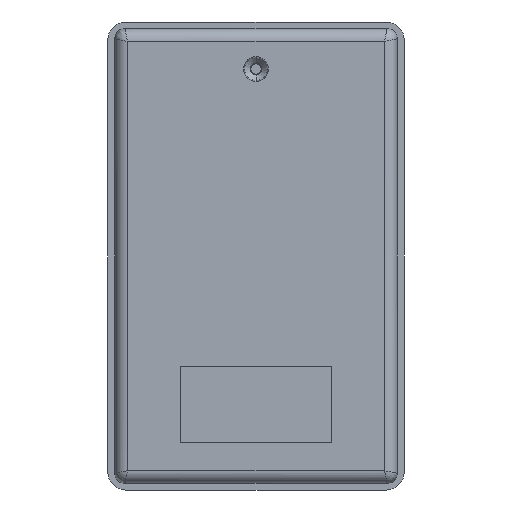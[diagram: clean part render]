
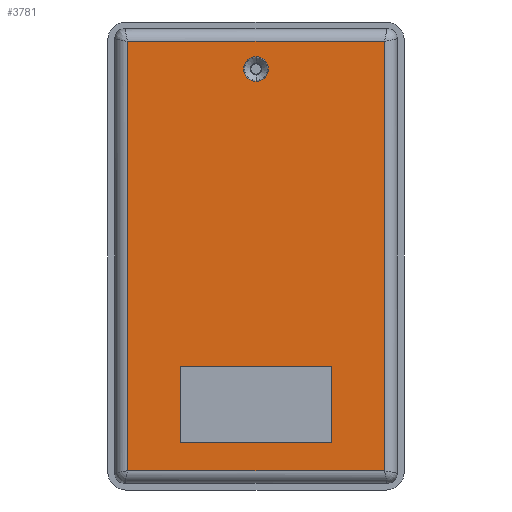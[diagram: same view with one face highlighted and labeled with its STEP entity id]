
A CAD part, front view. The second image highlights one B-rep face of the part: STEP entity #3781.
In plain terms, the highlighted planar face has unit normal (0, -1, 0).
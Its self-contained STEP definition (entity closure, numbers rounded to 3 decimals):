
#45 = LINE ( 'NONE', #1613, #3576 ) ;
#127 = DIRECTION ( 'NONE',  ( 0., 0., -1. ) ) ;
#170 = LINE ( 'NONE', #6738, #5607 ) ;
#209 = VERTEX_POINT ( 'NONE', #3080 ) ;
#351 = VERTEX_POINT ( 'NONE', #445 ) ;
#384 = EDGE_CURVE ( 'NONE', #4597, #6592, #1168, .T. ) ;
#444 = CARTESIAN_POINT ( 'NONE',  ( -25.281, -3., 42.231 ) ) ;
#445 = CARTESIAN_POINT ( 'NONE',  ( -14.95, -3., -21.75 ) ) ;
#468 = DIRECTION ( 'NONE',  ( -1., 0., 0. ) ) ;
#492 = CARTESIAN_POINT ( 'NONE',  ( -14.95, -3., -36.75 ) ) ;
#588 = ORIENTED_EDGE ( 'NONE', *, *, #779, .T. ) ;
#643 = EDGE_LOOP ( 'NONE', ( #5356, #3050 ) ) ;
#663 = DIRECTION ( 'NONE',  ( 0., 0., -1. ) ) ;
#677 = FACE_BOUND ( 'NONE', #643, .T. ) ;
#679 = LINE ( 'NONE', #4480, #1755 ) ;
#721 = ORIENTED_EDGE ( 'NONE', *, *, #1474, .F. ) ;
#779 = EDGE_CURVE ( 'NONE', #2225, #1148, #679, .T. ) ;
#885 = CARTESIAN_POINT ( 'NONE',  ( -25.8, -3., 42.231 ) ) ;
#1013 = VECTOR ( 'NONE', #5451, 1000. ) ;
#1148 = VERTEX_POINT ( 'NONE', #6281 ) ;
#1154 = LINE ( 'NONE', #885, #6673 ) ;
#1168 = LINE ( 'NONE', #2732, #1013 ) ;
#1289 = CARTESIAN_POINT ( 'NONE',  ( -25.281, -3., -42.231 ) ) ;
#1379 = ORIENTED_EDGE ( 'NONE', *, *, #4536, .T. ) ;
#1399 = AXIS2_PLACEMENT_3D ( 'NONE', #6617, #4995, #2354 ) ;
#1474 = EDGE_CURVE ( 'NONE', #351, #209, #45, .T. ) ;
#1493 = DIRECTION ( 'NONE',  ( 0., 0., 1. ) ) ;
#1585 = FACE_OUTER_BOUND ( 'NONE', #4028, .T. ) ;
#1613 = CARTESIAN_POINT ( 'NONE',  ( -14.95, -3., -21.75 ) ) ;
#1634 = EDGE_CURVE ( 'NONE', #2379, #3747, #4390, .T. ) ;
#1708 = CARTESIAN_POINT ( 'NONE',  ( -25.281, -3., -42.75 ) ) ;
#1755 = VECTOR ( 'NONE', #4966, 1000. ) ;
#1980 = VERTEX_POINT ( 'NONE', #3446 ) ;
#2041 = DIRECTION ( 'NONE',  ( 1., 0., 0. ) ) ;
#2225 = VERTEX_POINT ( 'NONE', #4088 ) ;
#2354 = DIRECTION ( 'NONE',  ( 0., 0., -1. ) ) ;
#2379 = VERTEX_POINT ( 'NONE', #444 ) ;
#2402 = VECTOR ( 'NONE', #3037, 1000. ) ;
#2466 = AXIS2_PLACEMENT_3D ( 'NONE', #3913, #3586, #1493 ) ;
#2482 = ORIENTED_EDGE ( 'NONE', *, *, #384, .F. ) ;
#2639 = AXIS2_PLACEMENT_3D ( 'NONE', #3268, #4871, #127 ) ;
#2656 = FACE_BOUND ( 'NONE', #5792, .T. ) ;
#2732 = CARTESIAN_POINT ( 'NONE',  ( 14.95, -3., -21.75 ) ) ;
#3037 = DIRECTION ( 'NONE',  ( 1., 0., 0. ) ) ;
#3050 = ORIENTED_EDGE ( 'NONE', *, *, #3691, .F. ) ;
#3080 = CARTESIAN_POINT ( 'NONE',  ( -14.95, -3., -36.75 ) ) ;
#3268 = CARTESIAN_POINT ( 'NONE',  ( 0., -3., 36.8 ) ) ;
#3351 = ORIENTED_EDGE ( 'NONE', *, *, #4662, .F. ) ;
#3446 = CARTESIAN_POINT ( 'NONE',  ( 0., -3., 34.35 ) ) ;
#3466 = VERTEX_POINT ( 'NONE', #4857 ) ;
#3576 = VECTOR ( 'NONE', #5837, 1000. ) ;
#3586 = DIRECTION ( 'NONE',  ( 0., 1., 0. ) ) ;
#3639 = CARTESIAN_POINT ( 'NONE',  ( -14.95, -3., -21.75 ) ) ;
#3691 = EDGE_CURVE ( 'NONE', #3466, #1980, #5045, .T. ) ;
#3747 = VERTEX_POINT ( 'NONE', #1289 ) ;
#3781 = ADVANCED_FACE ( 'NONE', ( #2656, #677, #1585 ), #5569, .F. ) ;
#3788 = LINE ( 'NONE', #492, #2402 ) ;
#3863 = ORIENTED_EDGE ( 'NONE', *, *, #1634, .T. ) ;
#3913 = CARTESIAN_POINT ( 'NONE',  ( 25.8, -3., 42.75 ) ) ;
#4028 = EDGE_LOOP ( 'NONE', ( #5608, #588, #1379, #3863 ) ) ;
#4088 = CARTESIAN_POINT ( 'NONE',  ( 25.281, -3., -42.231 ) ) ;
#4390 = LINE ( 'NONE', #1708, #6291 ) ;
#4480 = CARTESIAN_POINT ( 'NONE',  ( 25.281, -3., 42.75 ) ) ;
#4510 = CARTESIAN_POINT ( 'NONE',  ( 14.95, -3., -21.75 ) ) ;
#4536 = EDGE_CURVE ( 'NONE', #1148, #2379, #1154, .T. ) ;
#4571 = DIRECTION ( 'NONE',  ( -1., 0., 0. ) ) ;
#4597 = VERTEX_POINT ( 'NONE', #5579 ) ;
#4662 = EDGE_CURVE ( 'NONE', #209, #4597, #3788, .T. ) ;
#4797 = EDGE_CURVE ( 'NONE', #3747, #2225, #170, .T. ) ;
#4857 = CARTESIAN_POINT ( 'NONE',  ( 0., -3., 39.25 ) ) ;
#4871 = DIRECTION ( 'NONE',  ( 0., -1., 0. ) ) ;
#4966 = DIRECTION ( 'NONE',  ( 0., 0., 1. ) ) ;
#4995 = DIRECTION ( 'NONE',  ( 0., -1., 0. ) ) ;
#5045 = CIRCLE ( 'NONE', #1399, 2.45 ) ;
#5275 = VECTOR ( 'NONE', #468, 1000. ) ;
#5356 = ORIENTED_EDGE ( 'NONE', *, *, #6031, .F. ) ;
#5451 = DIRECTION ( 'NONE',  ( 0., 0., 1. ) ) ;
#5508 = ORIENTED_EDGE ( 'NONE', *, *, #6646, .F. ) ;
#5569 = PLANE ( 'NONE',  #2466 ) ;
#5579 = CARTESIAN_POINT ( 'NONE',  ( 14.95, -3., -36.75 ) ) ;
#5607 = VECTOR ( 'NONE', #2041, 1000. ) ;
#5608 = ORIENTED_EDGE ( 'NONE', *, *, #4797, .T. ) ;
#5627 = CIRCLE ( 'NONE', #2639, 2.45 ) ;
#5792 = EDGE_LOOP ( 'NONE', ( #5508, #2482, #3351, #721 ) ) ;
#5837 = DIRECTION ( 'NONE',  ( 0., 0., -1. ) ) ;
#5841 = LINE ( 'NONE', #3639, #5275 ) ;
#6031 = EDGE_CURVE ( 'NONE', #1980, #3466, #5627, .T. ) ;
#6281 = CARTESIAN_POINT ( 'NONE',  ( 25.281, -3., 42.231 ) ) ;
#6291 = VECTOR ( 'NONE', #663, 1000. ) ;
#6592 = VERTEX_POINT ( 'NONE', #4510 ) ;
#6617 = CARTESIAN_POINT ( 'NONE',  ( 0., -3., 36.8 ) ) ;
#6646 = EDGE_CURVE ( 'NONE', #6592, #351, #5841, .T. ) ;
#6673 = VECTOR ( 'NONE', #4571, 1000. ) ;
#6738 = CARTESIAN_POINT ( 'NONE',  ( 25.8, -3., -42.231 ) ) ;
